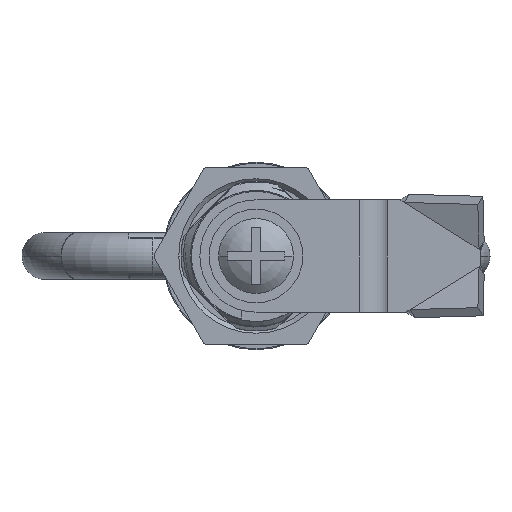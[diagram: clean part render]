
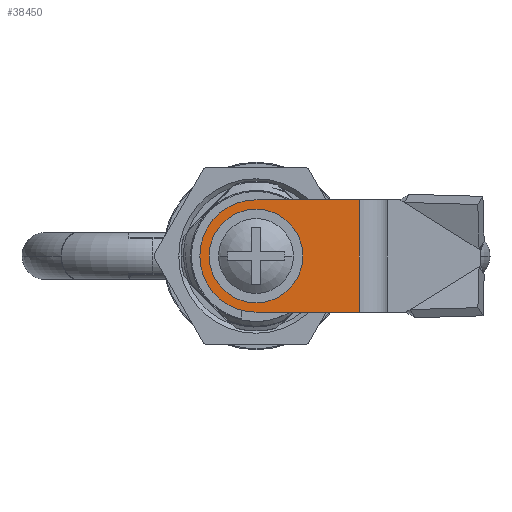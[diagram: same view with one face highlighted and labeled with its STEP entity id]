
A CAD part, front view. The second image highlights one B-rep face of the part: STEP entity #38450.
In plain terms, the highlighted planar face has unit normal (0, -1, 0) as drawn and (0.181, 0.29, -0.94) by its records, which use the part's own axes.
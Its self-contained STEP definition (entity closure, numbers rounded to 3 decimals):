
#37858=DIRECTION('',(-0.983,0.027,-0.181));
#37859=VECTOR('',#37858,11.);
#37860=CARTESIAN_POINT('',(12.402,-3.756,
-5.615));
#37861=LINE('',#37860,#37859);
#37875=DIRECTION('',(0.027,-0.957,-0.29));
#37876=VECTOR('',#37875,12.);
#37877=CARTESIAN_POINT('',(12.077,7.723,
-2.135));
#37878=LINE('',#37877,#37876);
#37888=DIRECTION('',(0.983,-0.027,0.181));
#37889=VECTOR('',#37888,11.);
#37890=CARTESIAN_POINT('',(1.263,8.021,
-4.129));
#37891=LINE('',#37890,#37889);
#37892=CARTESIAN_POINT('',(1.426,2.282,
-5.869));
#37893=DIRECTION('',(-0.181,-0.29,0.94));
#37894=DIRECTION('',(-0.027,0.957,0.29));
#37895=AXIS2_PLACEMENT_3D('',#37892,#37893,#37894);
#37897=DIRECTION('',(-0.983,0.027,-0.181));
#37898=VECTOR('',#37897,6.);
#37899=CARTESIAN_POINT('',(4.294,5.07,
-4.455));
#37900=LINE('',#37899,#37898);
#37905=DIRECTION('',(-0.027,0.957,0.29));
#37906=VECTOR('',#37905,6.);
#37907=CARTESIAN_POINT('',(4.457,-0.67,
-6.195));
#37908=LINE('',#37907,#37906);
#37913=DIRECTION('',(0.983,-0.027,0.181));
#37914=VECTOR('',#37913,6.);
#37915=CARTESIAN_POINT('',(-1.442,-0.507,
-7.283));
#37916=LINE('',#37915,#37914);
#37921=DIRECTION('',(0.027,-0.957,-0.29));
#37922=VECTOR('',#37921,6.);
#37923=CARTESIAN_POINT('',(-1.604,5.233,
-5.543));
#37924=LINE('',#37923,#37922);
#38092=CARTESIAN_POINT('',(4.294,5.07,
-4.455));
#38093=VERTEX_POINT('',#38092);
#38094=CARTESIAN_POINT('',(-1.604,5.233,
-5.543));
#38095=VERTEX_POINT('',#38094);
#38096=CARTESIAN_POINT('',(4.457,-0.67,
-6.195));
#38097=VERTEX_POINT('',#38096);
#38098=CARTESIAN_POINT('',(-1.442,-0.507,
-7.283));
#38099=VERTEX_POINT('',#38098);
#38100=CARTESIAN_POINT('',(1.263,8.021,
-4.129));
#38101=CARTESIAN_POINT('',(1.589,-3.458,
-7.609));
#38102=VERTEX_POINT('',#38100);
#38103=VERTEX_POINT('',#38101);
#38104=CARTESIAN_POINT('',(12.402,-3.756,
-5.615));
#38105=VERTEX_POINT('',#38104);
#38106=CARTESIAN_POINT('',(12.077,7.723,
-2.135));
#38107=VERTEX_POINT('',#38106);
#38429=CARTESIAN_POINT('',(1.426,2.282,
-5.869));
#38430=DIRECTION('',(-0.181,-0.29,0.94));
#38431=DIRECTION('',(0.983,-0.027,0.181));
#38432=AXIS2_PLACEMENT_3D('',#38429,#38430,#38431);
#38433=PLANE('',#38432);
#38434=ORIENTED_EDGE('',*,*,#38356,.T.);
#38435=ORIENTED_EDGE('',*,*,#38372,.F.);
#38436=ORIENTED_EDGE('',*,*,#38397,.F.);
#38437=ORIENTED_EDGE('',*,*,#38422,.F.);
#38438=EDGE_LOOP('',(#38434,#38435,#38436,#38437));
#38439=FACE_OUTER_BOUND('',#38438,.F.);
#38441=ORIENTED_EDGE('',*,*,#38440,.F.);
#38443=ORIENTED_EDGE('',*,*,#38442,.F.);
#38445=ORIENTED_EDGE('',*,*,#38444,.F.);
#38447=ORIENTED_EDGE('',*,*,#38446,.F.);
#38448=EDGE_LOOP('',(#38441,#38443,#38445,#38447));
#38449=FACE_BOUND('',#38448,.F.);
#38450=ADVANCED_FACE('',(#38439,#38449),#38433,.F.);
#37896=CIRCLE('',#37895,6.);
#38356=EDGE_CURVE('',#38102,#38103,#37896,.T.);
#38372=EDGE_CURVE('',#38105,#38103,#37861,.T.);
#38397=EDGE_CURVE('',#38107,#38105,#37878,.T.);
#38422=EDGE_CURVE('',#38102,#38107,#37891,.T.);
#38440=EDGE_CURVE('',#38093,#38095,#37900,.T.);
#38442=EDGE_CURVE('',#38097,#38093,#37908,.T.);
#38444=EDGE_CURVE('',#38099,#38097,#37916,.T.);
#38446=EDGE_CURVE('',#38095,#38099,#37924,.T.);
